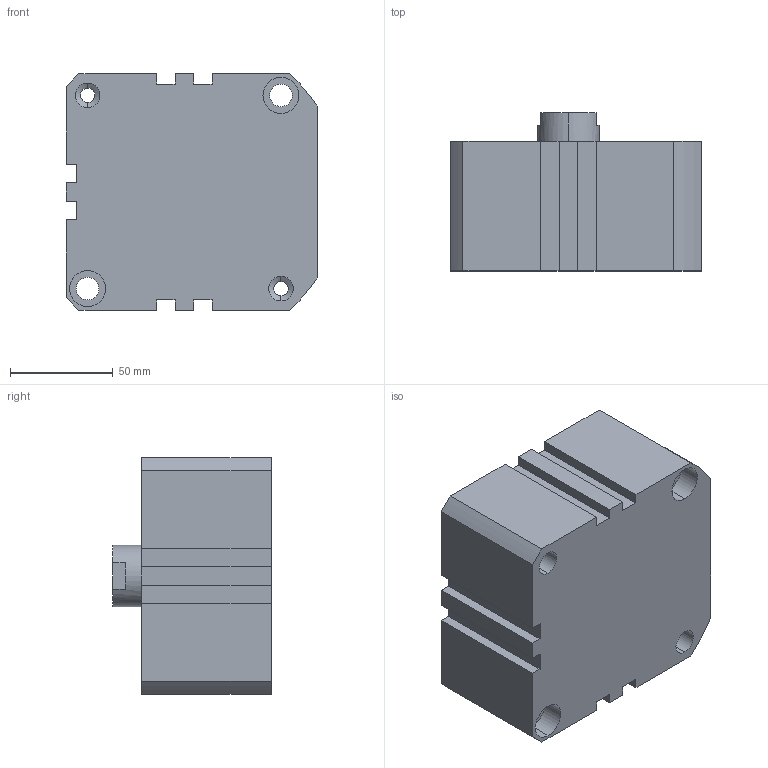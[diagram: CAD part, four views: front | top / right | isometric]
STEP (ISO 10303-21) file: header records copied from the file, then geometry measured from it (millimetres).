
FILE_DESCRIPTION (( 'STEP AP203' ), '1' );
FILE_NAME ('XC#2-100-10.STEP', '2016-05-23T08:17:47', ( '' ), ( '' ), 'SwSTEP 2.0', 'SolidWorks 2014', '' );
FILE_SCHEMA (( 'CONFIG_CONTROL_DESIGN' ));
Length unit declared in the file: millimetre
Products named in the file (1): XC#2-100-10
Bounding box: 122.5 x 77 x 115 mm (x, y, z)
Volume: 811527.3 mm3; surface area: 74513.9 mm2
Topology: 1 solids, 1 shells, 111 faces, 275 edges, 174 vertices
Faces by surface type: cylinder 47, plane 46, cone 18
Entity records: 3359 total; most frequent: DIRECTION 604, CARTESIAN_POINT 555, ORIENTED_EDGE 538, EDGE_CURVE 269, AXIS2_PLACEMENT_3D 223, VERTEX_POINT 174, VECTOR 158, LINE 158
